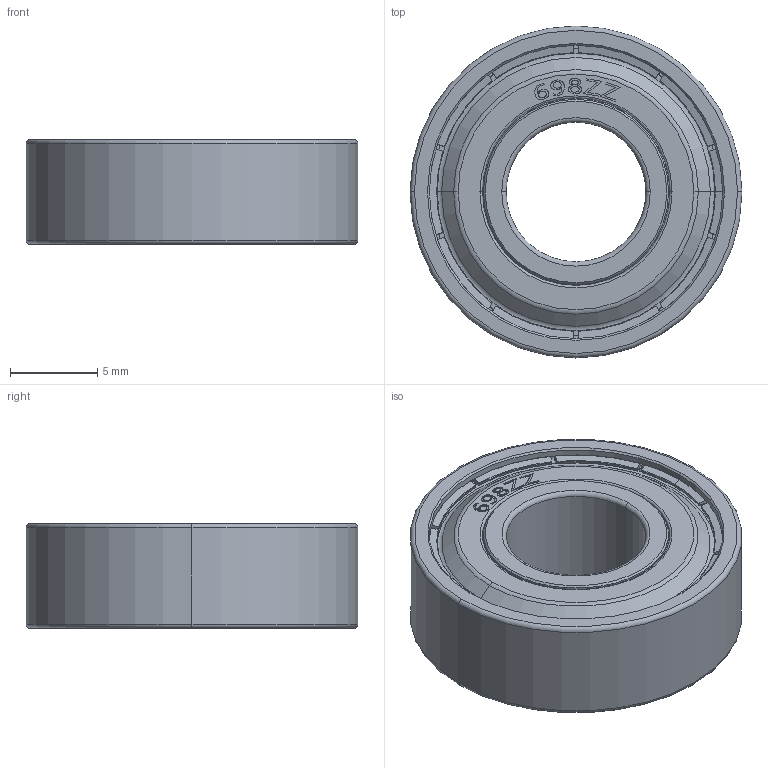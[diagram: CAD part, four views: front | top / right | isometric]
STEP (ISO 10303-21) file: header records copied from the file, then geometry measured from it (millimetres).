
FILE_DESCRIPTION (( 'STEP AP214' ), '1' );
FILE_NAME ('698zz Bearing.STEP', '2022-07-25T14:29:22', ( '' ), ( '' ), 'SwSTEP 2.0', 'SolidWorks 2022', '' );
FILE_SCHEMA (( 'AUTOMOTIVE_DESIGN' ));
Length unit declared in the file: millimetre
Products named in the file (1): 698zz Bearing
Bounding box: 19 x 19 x 6 mm (x, y, z)
Volume: 925.9 mm3; surface area: 2822.1 mm2
Topology: 22 solids, 22 shells, 1005 faces, 2648 edges, 1650 vertices
Faces by surface type: bspline 273, torus 204, cone 194, cylinder 136, plane 118, sphere 80
Entity records: 77220 total; most frequent: CARTESIAN_POINT 46274, ORIENTED_EDGE 5032, DIRECTION 4086, EDGE_CURVE 2516, AXIS2_PLACEMENT_3D 1815, VERTEX_POINT 1566, CIRCLE 1082, EDGE_LOOP 1060
